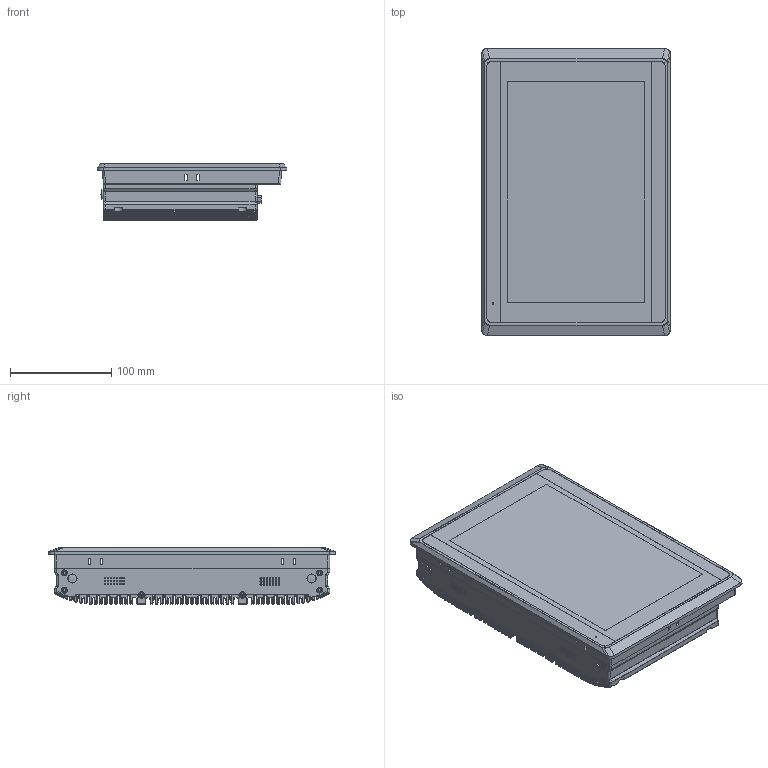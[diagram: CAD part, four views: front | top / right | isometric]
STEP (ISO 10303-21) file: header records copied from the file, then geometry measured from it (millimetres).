
FILE_DESCRIPTION((''),'2;1');
FILE_NAME('FPM-1001-20250228','2025-08-02T22:47:50',('anthony'),(''),'CREO PARAMETRIC BY PTC INC, 2024063','CREO PARAMETRIC BY PTC INC, 2024063','');
FILE_SCHEMA(('CONFIG_CONTROL_DESIGN','SHAPE_APPEARANCE_LAYERS_GROUPS'));
Products named in the file (1): FPM-1001-20250228
Bounding box: 186.94 x 283.24 x 56.08 mm (x, y, z)
Volume: 350023.1 mm3; surface area: 579038.6 mm2
Topology: 11 solids, 22 shells, 6139 faces, 19625 edges, 13578 vertices
Faces by surface type: plane 3611, cylinder 2250, cone 110, torus 88, bspline 70, extrusion 4, revolution 4, sphere 2
Entity records: 270697 total; most frequent: CARTESIAN_POINT 49818, ORIENTED_EDGE 39095, DIRECTION 35714, EDGE_CURVE 19598, VERTEX_POINT 13579, PRESENTATION_STYLE_ASSIGNMENT 13455, STYLED_ITEM 13084, CURVE_STYLE 12582
